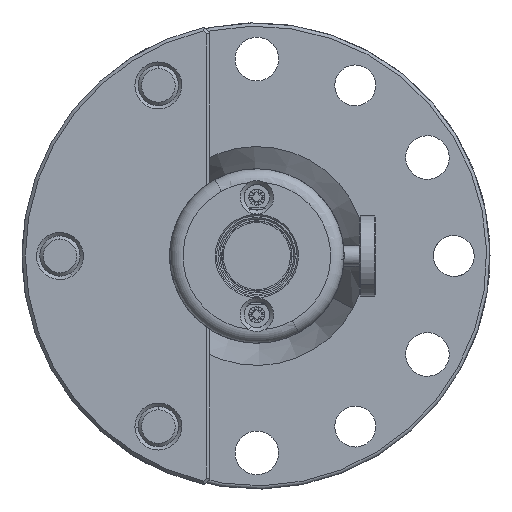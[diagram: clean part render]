
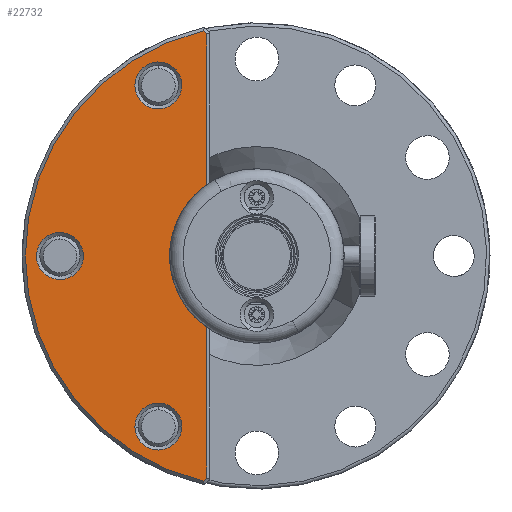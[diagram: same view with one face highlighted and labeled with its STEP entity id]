
A CAD part, front view. The second image highlights one B-rep face of the part: STEP entity #22732.
In plain terms, the highlighted planar face has unit normal (0, -1, 0).
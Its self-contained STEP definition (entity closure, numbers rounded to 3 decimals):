
#22487=AXIS2_PLACEMENT_3D('Circle Axis2P3D',#22485,#22486,$) ;
#22534=AXIS2_PLACEMENT_3D('Circle Axis2P3D',#22532,#22533,$) ;
#22623=AXIS2_PLACEMENT_3D('Circle Axis2P3D',#22621,#22622,$) ;
#22649=AXIS2_PLACEMENT_3D('Plane Axis2P3D',#22646,#22647,#22648) ;
#22667=AXIS2_PLACEMENT_3D('Circle Axis2P3D',#22665,#22666,$) ;
#22694=AXIS2_PLACEMENT_3D('Circle Axis2P3D',#22692,#22693,$) ;
#22703=AXIS2_PLACEMENT_3D('Circle Axis2P3D',#22701,#22702,$) ;
#22716=AXIS2_PLACEMENT_3D('Circle Axis2P3D',#22714,#22715,$) ;
#22725=AXIS2_PLACEMENT_3D('Circle Axis2P3D',#22723,#22724,$) ;
#22482=CARTESIAN_POINT('Vertex',(-31.171,-220.,2.989)) ;
#22485=CARTESIAN_POINT('Axis2P3D Location',(-29.35,-220.,0.)) ;
#22489=CARTESIAN_POINT('Vertex',(-27.529,-220.,-2.989)) ;
#22529=CARTESIAN_POINT('Vertex',(-7.971,-220.,-33.567)) ;
#22532=CARTESIAN_POINT('Axis2P3D Location',(0.,-220.,0.)) ;
#22536=CARTESIAN_POINT('Vertex',(-7.971,-220.,33.567)) ;
#22621=CARTESIAN_POINT('Axis2P3D Location',(-29.35,-220.,0.)) ;
#22646=CARTESIAN_POINT('Axis2P3D Location',(0.,-220.,0.)) ;
#22651=CARTESIAN_POINT('Line Origine',(-7.735,-220.,-33.331)) ;
#22655=CARTESIAN_POINT('Vertex',(-7.5,-220.,-33.096)) ;
#22658=CARTESIAN_POINT('Line Origine',(-7.5,-220.,-21.857)) ;
#22662=CARTESIAN_POINT('Vertex',(-7.5,-220.,-10.618)) ;
#22665=CARTESIAN_POINT('Axis2P3D Location',(0.,-220.,0.)) ;
#22669=CARTESIAN_POINT('Vertex',(-7.5,-220.,10.618)) ;
#22672=CARTESIAN_POINT('Line Origine',(-7.5,-220.,21.857)) ;
#22676=CARTESIAN_POINT('Vertex',(-7.5,-220.,33.096)) ;
#22679=CARTESIAN_POINT('Line Origine',(-7.735,-220.,33.331)) ;
#22692=CARTESIAN_POINT('Axis2P3D Location',(-14.675,-220.,-25.418)) ;
#22696=CARTESIAN_POINT('Vertex',(-11.176,-220.,-25.335)) ;
#22698=CARTESIAN_POINT('Vertex',(-18.174,-220.,-25.5)) ;
#22701=CARTESIAN_POINT('Axis2P3D Location',(-14.675,-220.,-25.418)) ;
#22714=CARTESIAN_POINT('Axis2P3D Location',(-14.675,-220.,25.418)) ;
#22718=CARTESIAN_POINT('Vertex',(-12.997,-220.,28.489)) ;
#22720=CARTESIAN_POINT('Vertex',(-16.353,-220.,22.346)) ;
#22723=CARTESIAN_POINT('Axis2P3D Location',(-14.675,-220.,25.418)) ;
#22486=DIRECTION('Axis2P3D Direction',(0.,-1.,0.)) ;
#22533=DIRECTION('Axis2P3D Direction',(0.,-1.,0.)) ;
#22622=DIRECTION('Axis2P3D Direction',(0.,-1.,0.)) ;
#22647=DIRECTION('Axis2P3D Direction',(0.,-1.,0.)) ;
#22648=DIRECTION('Axis2P3D XDirection',(0.,0.,-1.)) ;
#22652=DIRECTION('Vector Direction',(-0.707,0.,-0.707)) ;
#22659=DIRECTION('Vector Direction',(0.,0.,1.)) ;
#22666=DIRECTION('Axis2P3D Direction',(0.,-1.,0.)) ;
#22673=DIRECTION('Vector Direction',(0.,0.,1.)) ;
#22680=DIRECTION('Vector Direction',(-0.707,0.,0.707)) ;
#22693=DIRECTION('Axis2P3D Direction',(0.,-1.,0.)) ;
#22702=DIRECTION('Axis2P3D Direction',(0.,-1.,0.)) ;
#22715=DIRECTION('Axis2P3D Direction',(0.,-1.,0.)) ;
#22724=DIRECTION('Axis2P3D Direction',(0.,-1.,0.)) ;
#22653=VECTOR('Line Direction',#22652,1.) ;
#22660=VECTOR('Line Direction',#22659,1.) ;
#22674=VECTOR('Line Direction',#22673,1.) ;
#22681=VECTOR('Line Direction',#22680,1.) ;
#22685=ORIENTED_EDGE('',*,*,#22657,.F.) ;
#22686=ORIENTED_EDGE('',*,*,#22664,.F.) ;
#22687=ORIENTED_EDGE('',*,*,#22671,.F.) ;
#22688=ORIENTED_EDGE('',*,*,#22678,.F.) ;
#22689=ORIENTED_EDGE('',*,*,#22683,.F.) ;
#22690=ORIENTED_EDGE('',*,*,#22538,.F.) ;
#22707=ORIENTED_EDGE('',*,*,#22700,.F.) ;
#22708=ORIENTED_EDGE('',*,*,#22705,.F.) ;
#22711=ORIENTED_EDGE('',*,*,#22625,.F.) ;
#22712=ORIENTED_EDGE('',*,*,#22491,.F.) ;
#22729=ORIENTED_EDGE('',*,*,#22722,.F.) ;
#22730=ORIENTED_EDGE('',*,*,#22727,.F.) ;
#22709=FACE_BOUND('',#22706,.T.) ;
#22713=FACE_BOUND('',#22710,.T.) ;
#22731=FACE_BOUND('',#22728,.T.) ;
#22732=ADVANCED_FACE('TSWM-0150.1\\752.1\\Hauptk\X2\00F6\X0\rper',(#22691,#22709,#22713,#22731),#22650,.T.) ;
#22488=CIRCLE('generated circle',#22487,3.5) ;
#22535=CIRCLE('generated circle',#22534,34.5) ;
#22624=CIRCLE('generated circle',#22623,3.5) ;
#22668=CIRCLE('generated circle',#22667,13.) ;
#22695=CIRCLE('generated circle',#22694,3.5) ;
#22704=CIRCLE('generated circle',#22703,3.5) ;
#22717=CIRCLE('generated circle',#22716,3.5) ;
#22726=CIRCLE('generated circle',#22725,3.5) ;
#22491=EDGE_CURVE('',#22483,#22490,#22488,.T.) ;
#22538=EDGE_CURVE('',#22530,#22537,#22535,.F.) ;
#22625=EDGE_CURVE('',#22490,#22483,#22624,.T.) ;
#22657=EDGE_CURVE('',#22656,#22530,#22654,.T.) ;
#22664=EDGE_CURVE('',#22663,#22656,#22661,.F.) ;
#22671=EDGE_CURVE('',#22670,#22663,#22668,.T.) ;
#22678=EDGE_CURVE('',#22677,#22670,#22675,.F.) ;
#22683=EDGE_CURVE('',#22537,#22677,#22682,.F.) ;
#22700=EDGE_CURVE('',#22697,#22699,#22695,.T.) ;
#22705=EDGE_CURVE('',#22699,#22697,#22704,.T.) ;
#22722=EDGE_CURVE('',#22719,#22721,#22717,.T.) ;
#22727=EDGE_CURVE('',#22721,#22719,#22726,.T.) ;
#22684=EDGE_LOOP('',(#22685,#22686,#22687,#22688,#22689,#22690)) ;
#22706=EDGE_LOOP('',(#22707,#22708)) ;
#22710=EDGE_LOOP('',(#22711,#22712)) ;
#22728=EDGE_LOOP('',(#22729,#22730)) ;
#22691=FACE_OUTER_BOUND('',#22684,.T.) ;
#22654=LINE('Line',#22651,#22653) ;
#22661=LINE('Line',#22658,#22660) ;
#22675=LINE('Line',#22672,#22674) ;
#22682=LINE('Line',#22679,#22681) ;
#22650=PLANE('',#22649) ;
#22483=VERTEX_POINT('',#22482) ;
#22490=VERTEX_POINT('',#22489) ;
#22530=VERTEX_POINT('',#22529) ;
#22537=VERTEX_POINT('',#22536) ;
#22656=VERTEX_POINT('',#22655) ;
#22663=VERTEX_POINT('',#22662) ;
#22670=VERTEX_POINT('',#22669) ;
#22677=VERTEX_POINT('',#22676) ;
#22697=VERTEX_POINT('',#22696) ;
#22699=VERTEX_POINT('',#22698) ;
#22719=VERTEX_POINT('',#22718) ;
#22721=VERTEX_POINT('',#22720) ;
